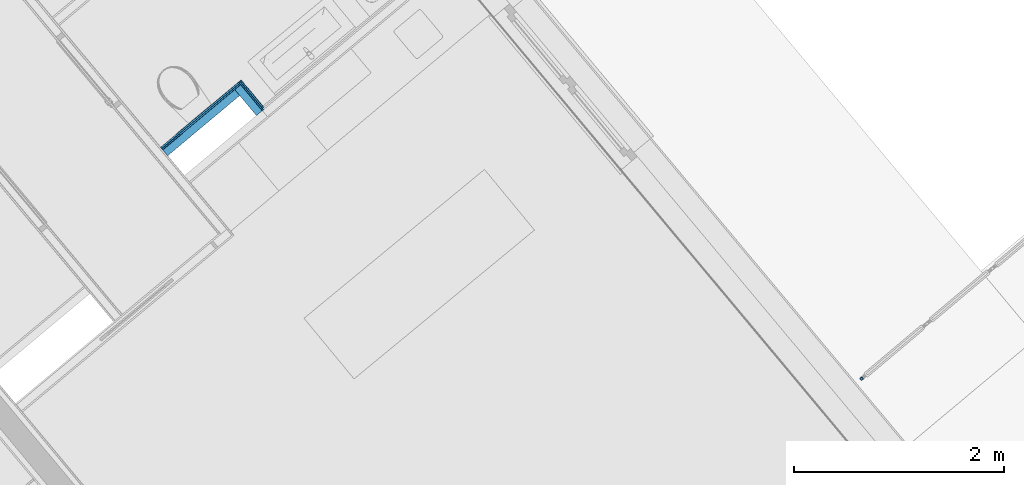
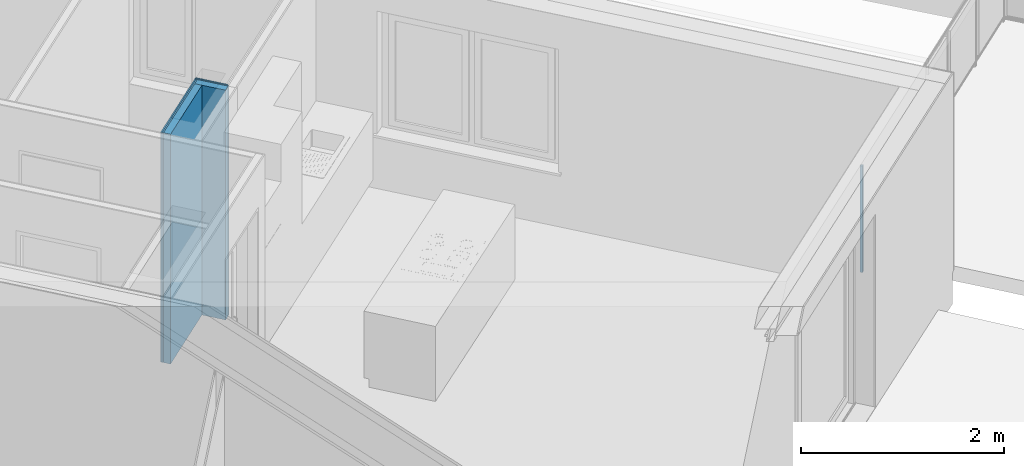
# One storey, part 38 of 75: 7 building element parts, 3 elements without a shape of their own.
"""IFC4 building model written with IfcOpenShell, lengths in metres."""

import ifcopenshell
import ifcopenshell.guid

model = None  # the IFC model being written
_history = None  # IfcOwnerHistory: only IFC2X3 demands one
_inside = {}  # id of a spatial element -> (the spatial element, [elements in it])
_under = {}  # id of a project, library or spatial element -> (it, [spatial elements below it])
_declared = {}  # id of a project -> (the project, [libraries it declares])
_typed = {}  # id of a type object -> (the type object, [elements of that type])
_made_of = {}  # id of a material, layer set ... -> (it, [elements and type objects made of it])


def new_model(schema):
    """Start an empty IFC model of exactly this schema.

    Asked for "IFC4X3", IfcOpenShell would pick the latest addendum, in which some entities
    have other attributes; the version numbers below select the first issue.
    IFC2X3 requires an IfcOwnerHistory on every rooted entity: one is made here for all.
    """
    global model, _history
    if schema == "IFC4X3":
        model = ifcopenshell.file(schema_version=(4, 3, 0, 0))
    else:
        model = ifcopenshell.file(schema=schema)
    _inside.clear()
    _under.clear()
    _declared.clear()
    _typed.clear()
    _made_of.clear()
    _history = None
    if model.schema == "IFC2X3":
        org = make("IfcOrganization", Name="unknown")
        user = make(
            "IfcPersonAndOrganization",
            ThePerson=make("IfcPerson", FamilyName="unknown"),
            TheOrganization=org,
        )
        app = make(
            "IfcApplication",
            ApplicationDeveloper=org,
            Version="unknown",
            ApplicationFullName="unknown",
            ApplicationIdentifier="unknown",
        )
        _history = make(
            "IfcOwnerHistory",
            OwningUser=user,
            OwningApplication=app,
            ChangeAction="ADDED",
            CreationDate=0,
        )
    return model


def make(cls, **values):
    """One entity of the class cls with the attributes given. An attribute that is None is left unset."""
    return model.create_entity(
        cls, **{name: value for name, value in values.items() if value is not None}
    )


def entity(cls, *values):
    """Any entity or typed value of the class cls, its attributes in the order of the schema. None: left unset."""
    e = model.create_entity(cls)
    for i, value in enumerate(values):
        if value is not None:
            e[i] = value
    return e


def rooted(cls, **values):
    """An entity with a GlobalId (a new one), such as an element, a storey or a relation."""
    return make(cls, GlobalId=ifcopenshell.guid.new(), OwnerHistory=_history, **values)


def si_unit(unit_type, name, prefix=None):
    """IfcSIUnit, for example si_unit("LENGTHUNIT", "METRE", prefix="MILLI")."""
    return make("IfcSIUnit", UnitType=unit_type, Prefix=prefix, Name=name)


def converted_unit(unit_type, name, factor, base, dimensions=None, offset=None):
    """IfcConversionBasedUnit, such as the inch: factor (a typed value) times the base unit."""
    return make(
        "IfcConversionBasedUnit"
        if offset is None
        else "IfcConversionBasedUnitWithOffset",
        ConversionOffset=offset,
        Dimensions=None
        if dimensions is None
        else entity("IfcDimensionalExponents", *dimensions),
        UnitType=unit_type,
        Name=name,
        ConversionFactor=make(
            "IfcMeasureWithUnit", ValueComponent=factor, UnitComponent=base
        ),
    )


def derived_unit(unit_type, elements):
    """IfcDerivedUnit: a product of units, each with its exponent."""
    return make(
        "IfcDerivedUnit",
        Elements=[
            make("IfcDerivedUnitElement", Unit=unit, Exponent=power)
            for unit, power in elements
        ],
        UnitType=unit_type,
    )


def assignment(units):
    """IfcUnitAssignment: the units of a project."""
    return None if units is None else make("IfcUnitAssignment", Units=units)


def point(xyz):
    """IfcCartesianPoint."""
    return None if xyz is None else make("IfcCartesianPoint", Coordinates=xyz)


def direction(xyz):
    """IfcDirection."""
    return None if xyz is None else make("IfcDirection", DirectionRatios=xyz)


def frame(location, z_axis=None, x_axis=None):
    """IfcAxis2Placement3D, a coordinate frame: its origin and axes. An axis left out is left unset."""
    return make(
        "IfcAxis2Placement3D",
        Location=point(location),
        Axis=direction(z_axis),
        RefDirection=direction(x_axis),
    )


def origin_with_axes():
    """The frame at (0, 0, 0) with the z axis (0, 0, 1) and the x axis (1, 0, 0) written out."""
    return frame((0.0, 0.0, 0.0), z_axis=(0.0, 0.0, 1.0), x_axis=(1.0, 0.0, 0.0))


def place(relative_to, where):
    """IfcLocalPlacement: puts the frame where relative to a parent placement (None: the world)."""
    return make(
        "IfcLocalPlacement", PlacementRelTo=relative_to, RelativePlacement=where
    )


def context(
    kind, dimensions, precision=None, world=None, true_north=None, identifier=None
):
    """IfcGeometricRepresentationContext, for example the 3D "Model" context."""
    return make(
        "IfcGeometricRepresentationContext",
        ContextIdentifier=identifier,
        ContextType=kind,
        CoordinateSpaceDimension=dimensions,
        Precision=precision,
        WorldCoordinateSystem=world,
        TrueNorth=true_north,
    )


def subcontext(parent, identifier, kind, view, scale=None):
    """IfcGeometricRepresentationSubContext, for example "Body" below "Model"."""
    return make(
        "IfcGeometricRepresentationSubContext",
        ContextIdentifier=identifier,
        ContextType=kind,
        ParentContext=parent,
        TargetScale=scale,
        TargetView=view,
    )


def project(units=None, contexts=None):
    """IfcProject with its units and contexts."""
    return rooted(
        "IfcProject",
        Name="project",
        RepresentationContexts=contexts,
        UnitsInContext=assignment(units),
    )


def spatial(cls, under=None, at=None, **own):
    """A site, building, storey or space (cls), placed at a placement, below another one or the project."""
    s = rooted(cls, ObjectPlacement=at, **own)
    if under is not None:
        _under.setdefault(under.id(), (under, []))[1].append(s)
    return s


def point_list(points):
    """IfcCartesianPointList2D or 3D."""
    cls = (
        "IfcCartesianPointList2D" if len(points[0]) == 2 else "IfcCartesianPointList3D"
    )
    return make(cls, CoordList=points)


def polygons(points, faces, closed=None, point_numbers=None):
    """IfcPolygonalFaceSet: a face is its outer loop, then its inner loops; points numbered from 1."""
    made = []
    for loops in faces:
        if len(loops) == 1:
            made.append(make("IfcIndexedPolygonalFace", CoordIndex=loops[0]))
        else:
            made.append(
                make(
                    "IfcIndexedPolygonalFaceWithVoids",
                    CoordIndex=loops[0],
                    InnerCoordIndices=loops[1:],
                )
            )
    return make(
        "IfcPolygonalFaceSet",
        Coordinates=point_list(points),
        Closed=closed,
        Faces=made,
        PnIndex=point_numbers,
    )


def shape(context_of_items, identifier, shape_type, items):
    """IfcShapeRepresentation: the items that make up one representation, for example the "Body"."""
    return make(
        "IfcShapeRepresentation",
        ContextOfItems=context_of_items,
        RepresentationIdentifier=identifier,
        RepresentationType=shape_type,
        Items=items,
    )


def material(Name=None, Category=None):
    """IfcMaterial."""
    return make("IfcMaterial", Name=Name, Category=Category)


def made_of(thing, what):
    """Note that an element or type object is made of a material, layer set ...; save() writes the relation."""
    if what is not None:
        _made_of.setdefault(what.id(), (what, []))[1].append(thing)
    return thing


def type_object(cls, material=None, **own):
    """A type object (cls), such as IfcWallType, which elements share."""
    return made_of(rooted(cls, **own), material)


def element(
    cls,
    number,
    at=None,
    inside=None,
    cuts=None,
    type_object=None,
    material=None,
    context=None,
    identifier="Body",
    shape_type=None,
    held_by="IfcProductDefinitionShape",
    body=None,
    shapes=None,
    **own,
):
    """One element of the class cls, such as IfcWall. Its Tag is "e" and its number.

    at: its placement. inside: the storey or other place that contains it. cuts: it is an
    opening in that element (IfcRelVoidsElement). A single representation is given by context,
    identifier, shape_type and body (its items); several are given by shapes. held_by: the class
    of the entity that holds the representations. save() writes the other relations.
    """
    e = rooted(cls, Tag="e%d" % number, ObjectPlacement=at, **own)
    if body is not None:
        shapes = [shape(context, identifier, shape_type, body)]
    if shapes is not None:
        e.Representation = make(held_by, Representations=shapes)
    if inside is not None:
        _inside.setdefault(inside.id(), (inside, []))[1].append(e)
    if cuts is not None:
        rooted(
            "IfcRelVoidsElement", RelatingBuildingElement=cuts, RelatedOpeningElement=e
        )
    if type_object is not None:
        _typed.setdefault(type_object.id(), (type_object, []))[1].append(e)
    return made_of(e, material)


def aggregate(whole, parts):
    """IfcRelAggregates: a whole, such as a stair, and the parts it consists of."""
    return rooted("IfcRelAggregates", RelatingObject=whole, RelatedObjects=parts)


def save(model, path):
    """Write the relations noted so far, then the file.

    IfcRelAggregates (storeys below a building ...), IfcRelContainedInSpatialStructure (elements
    in a storey), IfcRelDefinesByType, IfcRelAssociatesMaterial and IfcRelDeclares: one each for
    every whole, place, type object, material and project.
    """
    for whole, parts in _under.values():
        aggregate(whole, parts)
    for where, things in _inside.values():
        rooted(
            "IfcRelContainedInSpatialStructure",
            RelatedElements=things,
            RelatingStructure=where,
        )
    for kind, things in _typed.values():
        rooted("IfcRelDefinesByType", RelatedObjects=things, RelatingType=kind)
    for what, things in _made_of.values():
        rooted("IfcRelAssociatesMaterial", RelatedObjects=things, RelatingMaterial=what)
    for by, libraries in _declared.values():
        rooted("IfcRelDeclares", RelatingContext=by, RelatedDefinitions=libraries)
    model.write(path)


model = new_model("IFC4")

# Units and contexts
model_context = context("Model", 3, precision=1e-05, world=origin_with_axes(), true_north=direction((0.0, 1.0)))
body_context = subcontext(model_context, "Body", "Model", "MODEL_VIEW")
ifc_project = project(units=[si_unit("LENGTHUNIT", "METRE"), si_unit("AREAUNIT", "SQUARE_METRE"), si_unit("VOLUMEUNIT", "CUBIC_METRE"), converted_unit("PLANEANGLEUNIT", "DEGREE", entity("IfcPlaneAngleMeasure", 0.0174532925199), si_unit("PLANEANGLEUNIT", "RADIAN"), dimensions=[0, 0, 0, 0, 0, 0, 0]), converted_unit("TIMEUNIT", "Year", entity("IfcTimeMeasure", 31556926.0), si_unit("TIMEUNIT", "SECOND"), dimensions=[0, 0, 1, 0, 0, 0, 0]), si_unit("MASSUNIT", "GRAM", prefix="KILO"), si_unit("THERMODYNAMICTEMPERATUREUNIT", "DEGREE_CELSIUS"), si_unit("LUMINOUSINTENSITYUNIT", "LUMEN"), si_unit("ENERGYUNIT", "JOULE", prefix="MEGA"), derived_unit("THERMALCONDUCTANCEUNIT", [(si_unit("POWERUNIT", "WATT"), 1), (si_unit("LENGTHUNIT", "METRE"), -1), (si_unit("THERMODYNAMICTEMPERATUREUNIT", "KELVIN"), -1)]), derived_unit("SPECIFICHEATCAPACITYUNIT", [(si_unit("ENERGYUNIT", "JOULE"), 1), (si_unit("MASSUNIT", "GRAM", prefix="KILO"), -1), (si_unit("THERMODYNAMICTEMPERATUREUNIT", "KELVIN"), -1)]), derived_unit("MASSDENSITYUNIT", [(si_unit("MASSUNIT", "GRAM", prefix="KILO"), 1), (si_unit("VOLUMEUNIT", "CUBIC_METRE"), -1)])], contexts=[model_context])

# Site, building, storey
site_placement = place(None, frame((-0.00153261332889, -0.00661245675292, 0.0), z_axis=(0.0, 0.0, 1.0), x_axis=(1.0, 0.0, 0.0)))
site = spatial("IfcSite", under=ifc_project, at=site_placement, Name="Gelände", CompositionType="ELEMENT")
building_placement = place(site_placement, origin_with_axes())
building = spatial("IfcBuilding", under=site, at=building_placement, Name="Gebäude", CompositionType="ELEMENT")
storey_placement = place(building_placement, frame((0.0, 0.0, -0.22), z_axis=(0.0, 0.0, 1.0), x_axis=(1.0, 0.0, 0.0)))
storey = spatial("IfcBuildingStorey", under=building, at=storey_placement, Name="EG", CompositionType="ELEMENT", Elevation=-0.22)

# Wall, building element parts
wall_type = type_object("IfcWallType", Name="LB 10,5 cm doppelte Vorsatzschale Bad 105", PredefinedType="NOTDEFINED")
wall_1_placement = place(storey_placement, frame((6.19191495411, 23.207400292, 0.0), z_axis=(0.0, 0.0, 1.0), x_axis=(0.767365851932, 0.641209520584, 0.0)))
wall_1 = element("IfcWall", 1, at=wall_1_placement, inside=storey, type_object=wall_type, Name="Wand-004", PredefinedType="NOTDEFINED")
ifc_material_1 = material(Name="Gipskarton")
building_element_part_1_placement = place(wall_1_placement, origin_with_axes())
building_element_part_1 = element("IfcBuildingElementPart", 2, at=building_element_part_1_placement, material=ifc_material_1, Name="Gipskarton", PredefinedType="NOTDEFINED", context=body_context, shape_type="Tessellation", body=[
    polygons([(1.00222642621, 0.10487431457, 2.76), (1.00222642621, 0.09, 2.76), (1.00222642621, 0.09, 0.0), (1.00222642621, 0.10487431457, 0.0), (1.00219081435, 0.09, 2.76), (1.00219081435, 0.09, 0.0)], [[[1, 2, 3, 4]], [[5, 2, 1]], [[2, 5, 6, 3]], [[6, 4, 3]], [[5, 1, 4, 6]]], closed=True),
    polygons([(0.972226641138, 0.105, 2.76), (0.972190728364, 0.09, 2.76), (0.972190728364, 0.09, 0.0), (0.972226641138, 0.105, 0.0), (0.0, 0.09, 2.76), (0.0, 0.105, 2.76), (0.0, 0.09, 0.0), (0.0, 0.105, 0.0)], [[[1, 2, 3, 4]], [[5, 2, 1, 6]], [[2, 5, 7, 3]], [[4, 3, 7, 8]], [[6, 1, 4, 8]], [[5, 6, 8, 7]]], closed=True),
])
building_element_part_2_placement = place(wall_1_placement, origin_with_axes())
building_element_part_2 = element("IfcBuildingElementPart", 3, at=building_element_part_2_placement, material=ifc_material_1, Name="Gipskarton", PredefinedType="NOTDEFINED", context=body_context, shape_type="Tessellation", body=[
    polygons([(1.00222642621, 0.09, 2.76), (1.00222642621, 0.075, 2.76), (1.00222642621, 0.075, 0.0), (1.00222642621, 0.09, 0.0), (1.00215490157, 0.075, 2.76), (1.00219081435, 0.09, 2.76), (1.00215490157, 0.075, 0.0), (1.00219081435, 0.09, 0.0)], [[[1, 2, 3, 4]], [[5, 2, 1, 6]], [[2, 5, 7, 3]], [[8, 4, 3, 7]], [[6, 1, 4, 8]], [[5, 6, 8, 7]]], closed=True),
    polygons([(0.972190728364, 0.09, 2.76), (0.97215481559, 0.075, 2.76), (0.97215481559, 0.075, 0.0), (0.972190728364, 0.09, 0.0), (0.0, 0.075, 2.76), (0.0, 0.09, 2.76), (0.0, 0.075, 0.0), (0.0, 0.09, 0.0)], [[[1, 2, 3, 4]], [[5, 2, 1, 6]], [[2, 5, 7, 3]], [[4, 3, 7, 8]], [[6, 1, 4, 8]], [[5, 6, 8, 7]]], closed=True),
])
ifc_material_2 = material(Name="Mineralwolle weich")
building_element_part_3_placement = place(wall_1_placement, origin_with_axes())
building_element_part_3 = element("IfcBuildingElementPart", 4, at=building_element_part_3_placement, material=ifc_material_2, Name="Mineralwolle weich", PredefinedType="NOTDEFINED", context=body_context, shape_type="Tessellation", body=[
    polygons([(1.00197533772, 0.0, 0.22), (1.00222642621, 0.0, 0.22), (1.00222642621, 0.0, 2.76), (1.0019753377, 0.0, 2.76), (1.00222642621, 0.075, 0.22), (1.00215490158, 0.075, 0.22), (1.00222642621, 0.075, 2.76), (1.00215490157, 0.075, 2.76)], [[[1, 2, 3, 4]], [[5, 2, 1, 6]], [[2, 5, 7, 3]], [[4, 3, 7, 8]], [[6, 1, 4, 8]], [[5, 6, 8, 7]]], closed=True),
    polygons([(0.897154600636, 0.075, 2.76), (0.89697503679, 0.0, 2.76), (0.896975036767, 0.0, 0.0), (0.897154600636, 0.075, 0.0), (0.0, 0.0, 2.76), (0.0, 0.075, 2.76), (0.0, 0.0, 0.0), (0.0, 0.075, 0.0)], [[[1, 2, 3, 4]], [[5, 2, 1, 6]], [[2, 5, 7, 3]], [[4, 3, 7, 8]], [[6, 1, 4, 8]], [[5, 6, 8, 7]]], closed=True),
])
aggregate(wall_1, [building_element_part_1, building_element_part_2, building_element_part_3])

wall_2_placement = place(storey_placement, frame((6.81308887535, 23.8632838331, 0.0), z_axis=(0.0, 0.0, 1.0), x_axis=(0.639370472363, -0.768898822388, 0.0)))
wall_2 = element("IfcWall", 5, at=wall_2_placement, inside=storey, type_object=wall_type, Name="Wand-004", PredefinedType="NOTDEFINED")
building_element_part_4_placement = place(wall_2_placement, origin_with_axes())
building_element_part_4 = element("IfcBuildingElementPart", 6, at=building_element_part_4_placement, material=ifc_material_1, Name="Gipskarton", PredefinedType="NOTDEFINED", context=body_context, shape_type="Tessellation", body=[
    polygons([(0.0, 0.105, 2.76), (0.337978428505, 0.105, 2.76), (0.337978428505, 0.105, 0.0), (0.0, 0.105, 0.0), (0.0, 0.09, 2.76), (0.338014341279, 0.09, 2.76), (0.338014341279, 0.09, 0.0), (0.0, 0.09, 0.0)], [[[1, 2, 3, 4]], [[2, 1, 5, 6]], [[2, 6, 7, 3]], [[3, 7, 8, 4]], [[5, 1, 4, 8]], [[5, 8, 7, 6]]], closed=True),
])
building_element_part_5_placement = place(wall_2_placement, origin_with_axes())
building_element_part_5 = element("IfcBuildingElementPart", 7, at=building_element_part_5_placement, material=ifc_material_1, Name="Gipskarton", PredefinedType="NOTDEFINED", context=body_context, shape_type="Tessellation", body=[
    polygons([(0.0, 0.09, 2.76), (0.35301438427, 0.09, 2.76), (0.35301438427, 0.09, 0.0), (0.0, 0.09, 0.0), (0.0, 0.075, 2.76), (0.353050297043, 0.075, 2.76), (0.353050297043, 0.075, 0.0), (0.0, 0.075, 0.0)], [[[1, 2, 3, 4]], [[2, 1, 5, 6]], [[2, 6, 7, 3]], [[3, 7, 8, 4]], [[5, 1, 4, 8]], [[5, 8, 7, 6]]], closed=True),
])
building_element_part_6_placement = place(wall_2_placement, origin_with_axes())
building_element_part_6 = element("IfcBuildingElementPart", 8, at=building_element_part_6_placement, material=ifc_material_2, Name="Mineralwolle weich", PredefinedType="NOTDEFINED", context=body_context, shape_type="Tessellation", body=[
    polygons([(0.0298205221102, 0.075, 2.76), (0.353050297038, 0.075, 2.76), (0.353050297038, 0.075, 0.0), (0.0298205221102, 0.075, 0.0), (0.353229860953, 0.0, 2.76), (0.030000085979, 0.0, 2.76), (0.10500030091, 0.0, 2.76), (0.353229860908, 0.0, 0.0), (0.030000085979, 0.0, 0.0)], [[[1, 2, 3, 4]], [[5, 2, 1, 6, 7]], [[2, 5, 8, 3]], [[3, 8, 9, 4]], [[6, 1, 4, 9]], [[7, 6, 9, 8, 5]]], closed=True),
])
aggregate(wall_2, [building_element_part_4, building_element_part_5, building_element_part_6])

# Space
space_placement = place(storey_placement, frame((13.4528825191, 20.3252443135, 0.0), z_axis=(0.0, 0.0, 1.0), x_axis=(-0.766923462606, -0.641738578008, 0.0)))
space = spatial("IfcSpace", under=storey, at=space_placement, CompositionType="ELEMENT", PredefinedType="NOTDEFINED")

# Railing, building element part
railing_type = type_object("IfcRailingType", Name="Geländerart", PredefinedType="NOTDEFINED")
railing_placement = place(space_placement, frame((0.00343914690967, -1.03835442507, 0.38), z_axis=(0.0, 0.0, 1.0), x_axis=(-0.766923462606, 0.641738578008, 0.0)))
railing = element("IfcRailing", 9, at=railing_placement, inside=space, type_object=railing_type, Name="Geländer - 001", PredefinedType="NOTDEFINED")
ifc_material_3 = material(Name="Aluminium")
building_element_part_7_placement = place(railing_placement, origin_with_axes())
building_element_part_7 = element("IfcBuildingElementPart", 10, at=building_element_part_7_placement, material=ifc_material_3, Name="Aluminium", PredefinedType="NOTDEFINED", context=body_context, shape_type="Tessellation", body=[
    polygons([(0.0498271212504, -0.0397461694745, -0.3), (0.0337202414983, -0.0206263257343, -0.3), (0.0337202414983, -0.0206263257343, 0.98), (0.0498271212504, -0.0397461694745, 0.98), (0.0307072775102, -0.0558530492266, -0.3), (0.0146003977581, -0.0367332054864, -0.3), (0.0146003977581, -0.0367332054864, 0.98), (0.0307072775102, -0.0558530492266, 0.98)], [[[1, 2, 3, 4]], [[1, 5, 6, 2]], [[2, 6, 7, 3]], [[4, 3, 7, 8]], [[5, 1, 4, 8]], [[6, 5, 8, 7]]], closed=True),
])
aggregate(railing, [building_element_part_7])

save(model, "model.ifc")
